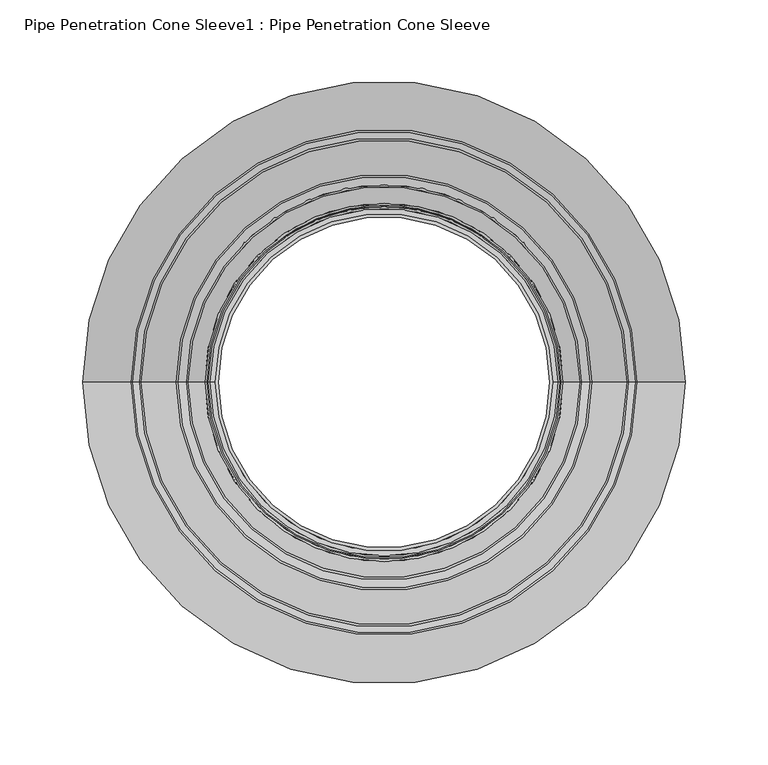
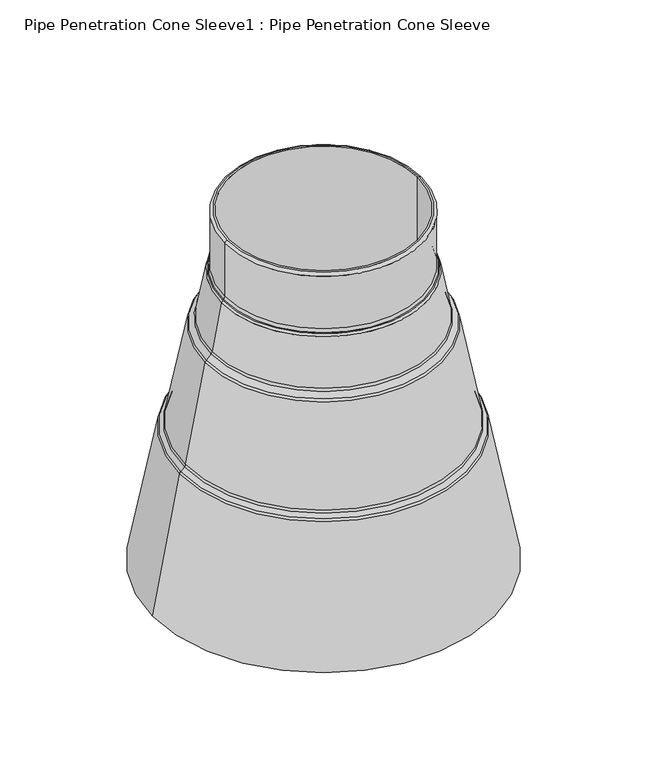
"""IFC4 building model written with IfcOpenShell, lengths in millimetres: proxy geometry, Pipe Penetration Cone Sleeve1 : Pipe Penetration Cone Sleeve."""

from ifc_helpers import new_model, si_unit, point, frame, origin, place, context, project, spatial, polyline, circle_curve, ellipse_curve, trimmed, source, transform, mapped, element, save
from ifc_brep_helpers import plane_surface, cylinder_surface, revolved_surface, advanced_brep


def pipe_penetration_cone_sleeve1_pipe_penetration_cone_sleeve_d81db76d(model_context):
    return source(origin(), model_context, "Body", "AdvancedBrep", [
        advanced_brep(
        [(-11509.4489979, -18094.9204124, 6298.0553219), (-11309.4489979, -18094.9204124, 6298.0553219), (-11309.4489979, -18094.9204124, 5903.0553219), (-11509.4489979, -18094.9204124, 5903.0553219), (-11514.4489979, -18094.9204124, 6236.1736828), (-11304.4489979, -18094.9204124, 6236.1736828), (-11304.4489979, -18094.9204124, 6295.0558584), (-11514.4489979, -18094.9204124, 6295.0558584), (-11516.4864376, -18094.9204124, 6232.0651753), (-11302.4115582, -18094.9204124, 6232.0651753), (-11302.9845318, -18094.9204124, 6232.6381489), (-11515.913464, -18094.9204124, 6232.6381489), (-11527.7701727, -18094.9204124, 6178.4953268), (-11291.1278231, -18094.9204124, 6178.4953268), (-11301.0389562, -18094.9204124, 6229.4836864), (-11517.8590396, -18094.9204124, 6229.4836864), (-11534.0520002, -18094.9204124, 6171.0046124), (-11284.8459957, -18094.9204124, 6171.0046124), (-11289.7552211, -18094.9204124, 6175.9138378), (-11529.1427747, -18094.9204124, 6175.9138378), (-11556.2337744, -18094.9204124, 6061.3692131), (-11262.6642215, -18094.9204124, 6061.3692131), (-11283.4733937, -18094.9204124, 6168.4231235), (-11535.4246022, -18094.9204124, 6168.4231235), (-11561.2986188, -18094.9204124, 6055.0954818), (-11257.5993771, -18094.9204124, 6055.0954818), (-11261.2916195, -18094.9204124, 6058.7877242), (-11557.6063764, -18094.9204124, 6058.7877242), (-11591.7230434, -18094.9204124, 5903.0553219), (-11227.1749524, -18094.9204124, 5903.0553219), (-11256.2267751, -18094.9204124, 6052.5139928), (-11562.6712208, -18094.9204124, 6052.5139928), (-11307.4484615, -18094.9204124, 6298.0553219), (-11511.4495344, -18094.9204124, 6298.0553219)],
        [
            (0, 1, circle_curve(frame((-11409.4489979, -18094.9204124, 6298.0553219), z_axis=(0.0, 0.0, 1.0), x_axis=(1.0, 0.0, 0.0)), 100.0)),
            (1, 2),
            (2, 3, circle_curve(frame((-11409.4489979, -18094.9204124, 5903.0553219), z_axis=(0.0, 0.0, -1.0), x_axis=(1.0, 0.0, 0.0)), 100.0)),
            (3, 0),
            (4, 5, circle_curve(frame((-11409.4489979, -18094.9204124, 6236.1736828), z_axis=(0.0, 0.0, 1.0), x_axis=(1.0, 0.0, 0.0)), 105.0)),
            (5, 6),
            (6, 7, circle_curve(frame((-11409.4489979, -18094.9204124, 6295.0558584), z_axis=(0.0, 0.0, -1.0), x_axis=(1.0, 0.0, 0.0)), 105.0)),
            (7, 4),
            (8, 9, circle_curve(frame((-11409.4489979, -18094.9204124, 6232.0651753), z_axis=(0.0, 0.0, 1.0), x_axis=(1.0, 0.0, 0.0)), 107.0374397)),
            (9, 10),
            (10, 11, circle_curve(frame((-11409.4489979, -18094.9204124, 6232.6381489), z_axis=(0.0, 0.0, -1.0), x_axis=(1.0, 0.0, 0.0)), 106.4644661)),
            (11, 8),
            (12, 13, circle_curve(frame((-11409.4489979, -18094.9204124, 6178.4953268), z_axis=(0.0, 0.0, 1.0), x_axis=(1.0, 0.0, 0.0)), 118.3211748)),
            (13, 14),
            (14, 15, circle_curve(frame((-11409.4489979, -18094.9204124, 6229.4836864), z_axis=(0.0, 0.0, -1.0), x_axis=(1.0, 0.0, 0.0)), 108.4100417)),
            (15, 12),
            (16, 17, circle_curve(frame((-11409.4489979, -18094.9204124, 6171.0046124), z_axis=(0.0, 0.0, 1.0), x_axis=(1.0, 0.0, 0.0)), 124.6030022)),
            (17, 18),
            (18, 19, circle_curve(frame((-11409.4489979, -18094.9204124, 6175.9138378), z_axis=(0.0, 0.0, -1.0), x_axis=(1.0, 0.0, 0.0)), 119.6937768)),
            (19, 16),
            (20, 21, circle_curve(frame((-11409.4489979, -18094.9204124, 6061.3692131), z_axis=(0.0, 0.0, 1.0), x_axis=(1.0, 0.0, 0.0)), 146.7847764)),
            (21, 22),
            (22, 23, circle_curve(frame((-11409.4489979, -18094.9204124, 6168.4231235), z_axis=(0.0, 0.0, -1.0), x_axis=(1.0, 0.0, 0.0)), 125.9756043)),
            (23, 20),
            (24, 25, circle_curve(frame((-11409.4489979, -18094.9204124, 6055.0954818), z_axis=(0.0, 0.0, 1.0), x_axis=(1.0, 0.0, 0.0)), 151.8496208)),
            (25, 26),
            (26, 27, circle_curve(frame((-11409.4489979, -18094.9204124, 6058.7877242), z_axis=(0.0, 0.0, -1.0), x_axis=(1.0, 0.0, 0.0)), 148.1573785)),
            (27, 24),
            (28, 29, circle_curve(frame((-11409.4489979, -18094.9204124, 5903.0553219), z_axis=(0.0, 0.0, 1.0), x_axis=(1.0, 0.0, 0.0)), 182.2740455)),
            (29, 30),
            (30, 31, circle_curve(frame((-11409.4489979, -18094.9204124, 6052.5139928), z_axis=(0.0, 0.0, -1.0), x_axis=(1.0, 0.0, 0.0)), 153.2222229)),
            (31, 28),
            (1, 0, circle_curve(frame((-11409.4489979, -18094.9204124, 6298.0553219), z_axis=(0.0, 0.0, 1.0), x_axis=(-1.0, 0.0, 0.0)), 100.0)),
            (3, 2, circle_curve(frame((-11409.4489979, -18094.9204124, 5903.0553219), z_axis=(0.0, 0.0, -1.0), x_axis=(-1.0, 0.0, 0.0)), 100.0)),
            (32, 33, circle_curve(frame((-11409.4489979, -18094.9204124, 6298.0553219), z_axis=(0.0, 0.0, 1.0), x_axis=(-1.0, 0.0, 0.0)), 102.0005365)),
            (33, 32, circle_curve(frame((-11409.4489979, -18094.9204124, 6298.0553219), z_axis=(0.0, 0.0, 1.0), x_axis=(1.0, 0.0, 0.0)), 102.0005365)),
            (5, 4, circle_curve(frame((-11409.4489979, -18094.9204124, 6236.1736828), z_axis=(0.0, 0.0, 1.0), x_axis=(-1.0, 0.0, 0.0)), 105.0)),
            (7, 6, circle_curve(frame((-11409.4489979, -18094.9204124, 6295.0558584), z_axis=(0.0, 0.0, -1.0), x_axis=(-1.0, 0.0, 0.0)), 105.0)),
            (9, 8, circle_curve(frame((-11409.4489979, -18094.9204124, 6232.0651753), z_axis=(0.0, 0.0, 1.0), x_axis=(-1.0, 0.0, 0.0)), 107.0374397)),
            (11, 10, circle_curve(frame((-11409.4489979, -18094.9204124, 6232.6381489), z_axis=(0.0, 0.0, -1.0), x_axis=(-1.0, 0.0, 0.0)), 106.4644661)),
            (13, 12, circle_curve(frame((-11409.4489979, -18094.9204124, 6178.4953268), z_axis=(0.0, 0.0, 1.0), x_axis=(-1.0, 0.0, 0.0)), 118.3211748)),
            (15, 14, circle_curve(frame((-11409.4489979, -18094.9204124, 6229.4836864), z_axis=(0.0, 0.0, -1.0), x_axis=(-1.0, 0.0, 0.0)), 108.4100417)),
            (17, 16, circle_curve(frame((-11409.4489979, -18094.9204124, 6171.0046124), z_axis=(0.0, 0.0, 1.0), x_axis=(-1.0, 0.0, 0.0)), 124.6030022)),
            (19, 18, circle_curve(frame((-11409.4489979, -18094.9204124, 6175.9138378), z_axis=(0.0, 0.0, -1.0), x_axis=(-1.0, 0.0, 0.0)), 119.6937768)),
            (21, 20, circle_curve(frame((-11409.4489979, -18094.9204124, 6061.3692131), z_axis=(0.0, 0.0, 1.0), x_axis=(-1.0, 0.0, 0.0)), 146.7847764)),
            (23, 22, circle_curve(frame((-11409.4489979, -18094.9204124, 6168.4231235), z_axis=(0.0, 0.0, -1.0), x_axis=(-1.0, 0.0, 0.0)), 125.9756043)),
            (25, 24, circle_curve(frame((-11409.4489979, -18094.9204124, 6055.0954818), z_axis=(0.0, 0.0, 1.0), x_axis=(-1.0, 0.0, 0.0)), 151.8496208)),
            (27, 26, circle_curve(frame((-11409.4489979, -18094.9204124, 6058.7877242), z_axis=(0.0, 0.0, -1.0), x_axis=(-1.0, 0.0, 0.0)), 148.1573785)),
            (29, 28, circle_curve(frame((-11409.4489979, -18094.9204124, 5903.0553219), z_axis=(0.0, 0.0, 1.0), x_axis=(-1.0, 0.0, 0.0)), 182.2740455)),
            (31, 30, circle_curve(frame((-11409.4489979, -18094.9204124, 6052.5139928), z_axis=(0.0, 0.0, -1.0), x_axis=(-1.0, 0.0, 0.0)), 153.2222229)),
            (10, 5, circle_curve(frame((-11299.4489979, -18094.9204124, 6236.1736828), z_axis=(0.0, 1.0, 0.0), x_axis=(1.0, 0.0, 0.0)), 5.0)),
            (4, 11, circle_curve(frame((-11519.4489979, -18094.9204124, 6236.1736828), z_axis=(0.0, 1.0, 0.0), x_axis=(-1.0, 0.0, 0.0)), 5.0)),
            (14, 9, circle_curve(frame((-11305.9470922, -18094.9204124, 6228.5296414), z_axis=(0.0, -1.0, 0.0), x_axis=(1.0, 0.0, 0.0)), 5.0)),
            (8, 15, circle_curve(frame((-11512.9509037, -18094.9204124, 6228.5296414), z_axis=(0.0, -1.0, 0.0), x_axis=(-1.0, 0.0, 0.0)), 5.0)),
            (18, 13, circle_curve(frame((-11286.2196872, -18094.9204124, 6179.4493717), z_axis=(0.0, 1.0, 0.0), x_axis=(1.0, 0.0, 0.0)), 5.0)),
            (12, 19, circle_curve(frame((-11532.6783086, -18094.9204124, 6179.4493717), z_axis=(0.0, 1.0, 0.0), x_axis=(-1.0, 0.0, 0.0)), 5.0)),
            (22, 17, circle_curve(frame((-11288.3815296, -18094.9204124, 6167.4690785), z_axis=(0.0, -1.0, 0.0), x_axis=(1.0, 0.0, 0.0)), 5.0)),
            (16, 23, circle_curve(frame((-11530.5164663, -18094.9204124, 6167.4690785), z_axis=(0.0, -1.0, 0.0), x_axis=(-1.0, 0.0, 0.0)), 5.0)),
            (26, 21, circle_curve(frame((-11257.7560856, -18094.9204124, 6062.3232581), z_axis=(0.0, 1.0, 0.0), x_axis=(1.0, 0.0, 0.0)), 5.0)),
            (20, 27, circle_curve(frame((-11561.1419103, -18094.9204124, 6062.3232581), z_axis=(0.0, 1.0, 0.0), x_axis=(-1.0, 0.0, 0.0)), 5.0)),
            (30, 25, circle_curve(frame((-11261.134911, -18094.9204124, 6051.5599479), z_axis=(0.0, -1.0, 0.0), x_axis=(1.0, 0.0, 0.0)), 5.0)),
            (24, 31, circle_curve(frame((-11557.7630849, -18094.9204124, 6051.5599479), z_axis=(0.0, -1.0, 0.0), x_axis=(-1.0, 0.0, 0.0)), 5.0)),
            (6, 32, circle_curve(frame((-11307.4484615, -18094.9204124, 6295.0558584), z_axis=(0.0, -1.0, 0.0), x_axis=(1.0, 0.0, 0.0)), 2.9994635)),
            (33, 7, circle_curve(frame((-11511.4495344, -18094.9204124, 6295.0558584), z_axis=(0.0, -1.0, 0.0), x_axis=(-1.0, 0.0, 0.0)), 2.9994635)),
        ],
        [
            revolved_surface(polyline([(-11309.4489979, -18094.9204124, 5903.0553219), (-11309.4489979, -18094.9204124, 6298.0553219)]), (-11409.4489979, -18094.9204124, 6708.0553219), (0.0, 0.0, -1.0)),
            cylinder_surface(frame((-11409.4489979, -18094.9204124, 6708.0553219), z_axis=(0.0, 0.0, -1.0), x_axis=(1.0, 0.0, 0.0)), 105.0),
            revolved_surface(polyline([(-11302.9845318, -18094.9204124, 6232.6381489), (-11302.4115582, -18094.9204124, 6232.0651753)]), (-11409.4489979, -18094.9204124, 6708.0553219), (0.0, 0.0, -1.0)),
            revolved_surface(polyline([(-11301.0389562, -18094.9204124, 6229.4836864), (-11291.1278231, -18094.9204124, 6178.4953268)]), (-11409.4489979, -18094.9204124, 6708.0553219), (0.0, 0.0, -1.0)),
            revolved_surface(polyline([(-11289.7552211, -18094.9204124, 6175.9138378), (-11284.8459957, -18094.9204124, 6171.0046124)]), (-11409.4489979, -18094.9204124, 6708.0553219), (0.0, 0.0, -1.0)),
            revolved_surface(polyline([(-11283.4733937, -18094.9204124, 6168.4231235), (-11262.6642215, -18094.9204124, 6061.3692131)]), (-11409.4489979, -18094.9204124, 6708.0553219), (0.0, 0.0, -1.0)),
            revolved_surface(polyline([(-11261.2916195, -18094.9204124, 6058.7877242), (-11257.5993771, -18094.9204124, 6055.0954818)]), (-11409.4489979, -18094.9204124, 6708.0553219), (0.0, 0.0, -1.0)),
            revolved_surface(polyline([(-11256.2267751, -18094.9204124, 6052.5139928), (-11227.1749524, -18094.9204124, 5903.0553219)]), (-11409.4489979, -18094.9204124, 6708.0553219), (0.0, 0.0, -1.0)),
            revolved_surface(polyline([(-11509.4489979, -18094.9204124, 5903.0553219), (-11509.4489979, -18094.9204124, 6298.0553219)]), (-11409.4489979, -18094.9204124, 6708.0553219), (0.0, 0.0, -1.0)),
            plane_surface(frame((-11409.4489979, -18094.9204124, 6298.0553219), z_axis=(0.0, 0.0, 1.0), x_axis=(-1.0, 0.0, 0.0))),
            cylinder_surface(frame((-11409.4489979, -18094.9204124, 6708.0553219), z_axis=(0.0, 0.0, -1.0), x_axis=(-1.0, 0.0, 0.0)), 105.0),
            revolved_surface(polyline([(-11515.913464, -18094.9204124, 6232.6381489), (-11516.4864376, -18094.9204124, 6232.0651753)]), (-11409.4489979, -18094.9204124, 6708.0553219), (0.0, 0.0, -1.0)),
            revolved_surface(polyline([(-11517.8590396, -18094.9204124, 6229.4836864), (-11527.7701727, -18094.9204124, 6178.4953268)]), (-11409.4489979, -18094.9204124, 6708.0553219), (0.0, 0.0, -1.0)),
            revolved_surface(polyline([(-11529.1427747, -18094.9204124, 6175.9138378), (-11534.0520002, -18094.9204124, 6171.0046124)]), (-11409.4489979, -18094.9204124, 6708.0553219), (0.0, 0.0, -1.0)),
            revolved_surface(polyline([(-11535.4246022, -18094.9204124, 6168.4231235), (-11556.2337744, -18094.9204124, 6061.3692131)]), (-11409.4489979, -18094.9204124, 6708.0553219), (0.0, 0.0, -1.0)),
            revolved_surface(polyline([(-11557.6063764, -18094.9204124, 6058.7877242), (-11561.2986188, -18094.9204124, 6055.0954818)]), (-11409.4489979, -18094.9204124, 6708.0553219), (0.0, 0.0, -1.0)),
            revolved_surface(polyline([(-11562.6712208, -18094.9204124, 6052.5139928), (-11591.7230434, -18094.9204124, 5903.0553219)]), (-11409.4489979, -18094.9204124, 6708.0553219), (0.0, 0.0, -1.0)),
            plane_surface(frame((-11409.4489979, -18094.9204124, 5903.0553219), z_axis=(0.0, 0.0, -1.0), x_axis=(-1.0, 0.0, 0.0))),
            revolved_surface(trimmed(ellipse_curve(frame((-11299.4489979, -18094.9204124, 6236.1736828), z_axis=(0.0, -1.0, 0.0), x_axis=(1.0, 0.0, 0.0)), 5.0, 5.0), [point((-11304.4489979, -18094.9204124, 6236.1736828))], [point((-11302.9845318, -18094.9204124, 6232.6381489))], True, "CARTESIAN"), (-11409.4489979, -18094.9204124, 6708.0553219), (0.0, 0.0, -1.0)),
            revolved_surface(trimmed(ellipse_curve(frame((-11305.9470922, -18094.9204124, 6228.5296414), z_axis=(0.0, 1.0, 0.0), x_axis=(1.0, 0.0, 0.0)), 5.0, 5.0), [point((-11302.4115582, -18094.9204124, 6232.0651753))], [point((-11301.0389562, -18094.9204124, 6229.4836864))], True, "CARTESIAN"), (-11409.4489979, -18094.9204124, 6708.0553219), (0.0, 0.0, -1.0)),
            revolved_surface(trimmed(ellipse_curve(frame((-11286.2196872, -18094.9204124, 6179.4493717), z_axis=(0.0, -1.0, 0.0), x_axis=(1.0, 0.0, 0.0)), 5.0, 5.0), [point((-11291.1278231, -18094.9204124, 6178.4953268))], [point((-11289.7552211, -18094.9204124, 6175.9138378))], True, "CARTESIAN"), (-11409.4489979, -18094.9204124, 6708.0553219), (0.0, 0.0, -1.0)),
            revolved_surface(trimmed(ellipse_curve(frame((-11288.3815296, -18094.9204124, 6167.4690785), z_axis=(0.0, 1.0, 0.0), x_axis=(1.0, 0.0, 0.0)), 5.0, 5.0), [point((-11284.8459957, -18094.9204124, 6171.0046124))], [point((-11283.4733937, -18094.9204124, 6168.4231235))], True, "CARTESIAN"), (-11409.4489979, -18094.9204124, 6708.0553219), (0.0, 0.0, -1.0)),
            revolved_surface(trimmed(ellipse_curve(frame((-11257.7560856, -18094.9204124, 6062.3232581), z_axis=(0.0, -1.0, 0.0), x_axis=(1.0, 0.0, 0.0)), 5.0, 5.0), [point((-11262.6642215, -18094.9204124, 6061.3692131))], [point((-11261.2916195, -18094.9204124, 6058.7877242))], True, "CARTESIAN"), (-11409.4489979, -18094.9204124, 6708.0553219), (0.0, 0.0, -1.0)),
            revolved_surface(trimmed(ellipse_curve(frame((-11261.134911, -18094.9204124, 6051.5599479), z_axis=(0.0, 1.0, 0.0), x_axis=(1.0, 0.0, 0.0)), 5.0, 5.0), [point((-11257.5993771, -18094.9204124, 6055.0954818))], [point((-11256.2267751, -18094.9204124, 6052.5139928))], True, "CARTESIAN"), (-11409.4489979, -18094.9204124, 6708.0553219), (0.0, 0.0, -1.0)),
            revolved_surface(trimmed(ellipse_curve(frame((-11519.4489979, -18094.9204124, 6236.1736828), z_axis=(0.0, 1.0, 0.0), x_axis=(-1.0, 0.0, 0.0)), 5.0, 5.0), [point((-11514.4489979, -18094.9204124, 6236.1736828))], [point((-11515.913464, -18094.9204124, 6232.6381489))], True, "CARTESIAN"), (-11409.4489979, -18094.9204124, 6708.0553219), (0.0, 0.0, -1.0)),
            revolved_surface(trimmed(ellipse_curve(frame((-11512.9509037, -18094.9204124, 6228.5296414), z_axis=(0.0, -1.0, 0.0), x_axis=(-1.0, 0.0, 0.0)), 5.0, 5.0), [point((-11516.4864376, -18094.9204124, 6232.0651753))], [point((-11517.8590396, -18094.9204124, 6229.4836864))], True, "CARTESIAN"), (-11409.4489979, -18094.9204124, 6708.0553219), (0.0, 0.0, -1.0)),
            revolved_surface(trimmed(ellipse_curve(frame((-11532.6783086, -18094.9204124, 6179.4493717), z_axis=(0.0, 1.0, 0.0), x_axis=(-1.0, 0.0, 0.0)), 5.0, 5.0), [point((-11527.7701727, -18094.9204124, 6178.4953268))], [point((-11529.1427747, -18094.9204124, 6175.9138378))], True, "CARTESIAN"), (-11409.4489979, -18094.9204124, 6708.0553219), (0.0, 0.0, -1.0)),
            revolved_surface(trimmed(ellipse_curve(frame((-11530.5164663, -18094.9204124, 6167.4690785), z_axis=(0.0, -1.0, 0.0), x_axis=(-1.0, 0.0, 0.0)), 5.0, 5.0), [point((-11534.0520002, -18094.9204124, 6171.0046124))], [point((-11535.4246022, -18094.9204124, 6168.4231235))], True, "CARTESIAN"), (-11409.4489979, -18094.9204124, 6708.0553219), (0.0, 0.0, -1.0)),
            revolved_surface(trimmed(ellipse_curve(frame((-11561.1419103, -18094.9204124, 6062.3232581), z_axis=(0.0, 1.0, 0.0), x_axis=(-1.0, 0.0, 0.0)), 5.0, 5.0), [point((-11556.2337744, -18094.9204124, 6061.3692131))], [point((-11557.6063764, -18094.9204124, 6058.7877242))], True, "CARTESIAN"), (-11409.4489979, -18094.9204124, 6708.0553219), (0.0, 0.0, -1.0)),
            revolved_surface(trimmed(ellipse_curve(frame((-11557.7630849, -18094.9204124, 6051.5599479), z_axis=(0.0, -1.0, 0.0), x_axis=(-1.0, 0.0, 0.0)), 5.0, 5.0), [point((-11561.2986188, -18094.9204124, 6055.0954818))], [point((-11562.6712208, -18094.9204124, 6052.5139928))], True, "CARTESIAN"), (-11409.4489979, -18094.9204124, 6708.0553219), (0.0, 0.0, -1.0)),
            revolved_surface(trimmed(ellipse_curve(frame((-11307.4484615, -18094.9204124, 6295.0558584), z_axis=(0.0, 1.0, 0.0), x_axis=(1.0, 0.0, 0.0)), 2.9994635, 2.9994635), [point((-11307.4484615, -18094.9204124, 6298.0553219))], [point((-11304.4489979, -18094.9204124, 6295.0558584))], True, "CARTESIAN"), (-11409.4489979, -18094.9204124, 6708.0553219), (0.0, 0.0, -1.0)),
            revolved_surface(trimmed(ellipse_curve(frame((-11511.4495344, -18094.9204124, 6295.0558584), z_axis=(0.0, -1.0, 0.0), x_axis=(-1.0, 0.0, 0.0)), 2.9994635, 2.9994635), [point((-11511.4495344, -18094.9204124, 6298.0553219))], [point((-11514.4489979, -18094.9204124, 6295.0558584))], True, "CARTESIAN"), (-11409.4489979, -18094.9204124, 6708.0553219), (0.0, 0.0, -1.0)),
        ],
        [
            (0, [[1, 2, 3, 4]]),
            (1, [[5, 6, 7, 8]]),
            (2, [[9, 10, 11, 12]]),
            (3, [[13, 14, 15, 16]]),
            (4, [[17, 18, 19, 20]]),
            (5, [[21, 22, 23, 24]]),
            (6, [[25, 26, 27, 28]]),
            (7, [[29, 30, 31, 32]]),
            (8, [[33, -4, 34, -2]]),
            (9, [[35, 36], [-33, -1]]),
            (10, [[37, -8, 38, -6]]),
            (11, [[39, -12, 40, -10]]),
            (12, [[41, -16, 42, -14]]),
            (13, [[43, -20, 44, -18]]),
            (14, [[45, -24, 46, -22]]),
            (15, [[47, -28, 48, -26]]),
            (16, [[49, -32, 50, -30]]),
            (17, [[-49, -29], [-34, -3]]),
            (18, [[-11, 51, -5, 52]]),
            (19, [[-15, 53, -9, 54]]),
            (20, [[-19, 55, -13, 56]]),
            (21, [[-23, 57, -17, 58]]),
            (22, [[-27, 59, -21, 60]]),
            (23, [[-31, 61, -25, 62]]),
            (24, [[-40, -52, -37, -51]]),
            (25, [[-42, -54, -39, -53]]),
            (26, [[-44, -56, -41, -55]]),
            (27, [[-46, -58, -43, -57]]),
            (28, [[-48, -60, -45, -59]]),
            (29, [[-50, -62, -47, -61]]),
            (30, [[-7, 63, -36, 64]]),
            (31, [[-38, -64, -35, -63]]),
        ],
    ),
    ])


if __name__ == "__main__":
    model = new_model("IFC4")
    model_context = context("Model", 3, world=origin())
    ifc_project = project(units=[si_unit("LENGTHUNIT", "METRE", prefix="MILLI")], contexts=[model_context])
    site = spatial("IfcSite", under=ifc_project)
    building = spatial("IfcBuilding", under=site)
    placement = place(None, origin())
    pipe_penetration_cone_sleeve1_pipe_penetration_cone_sleeve_shape = pipe_penetration_cone_sleeve1_pipe_penetration_cone_sleeve_d81db76d(model_context)
    element("IfcBuildingElementProxy", 1, Name="Pipe Penetration Cone Sleeve1 : Pipe Penetration Cone Sleeve", ObjectType="Pipe Penetration Cone Sleeve1 : Pipe Penetration Cone Sleeve", at=placement, inside=building, context=model_context, shape_type="MappedRepresentation", body=[
        mapped(pipe_penetration_cone_sleeve1_pipe_penetration_cone_sleeve_shape, transform((0.0, 0.0, 0.0), x_axis=(1.0, 0.0, 0.0), y_axis=(0.0, 1.0, 0.0), z_axis=(0.0, 0.0, 1.0))),
    ])
    save(model, "model.ifc")
